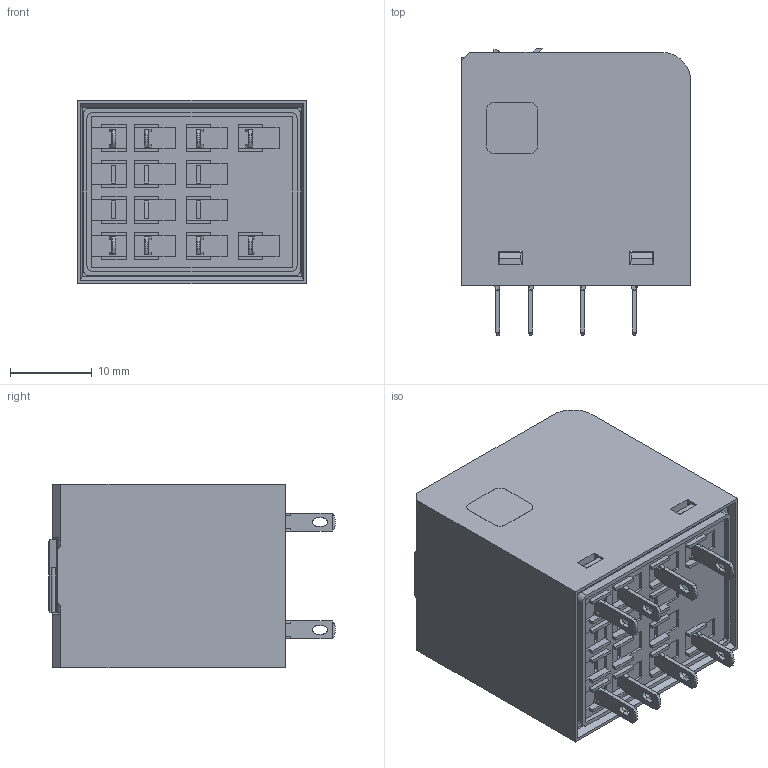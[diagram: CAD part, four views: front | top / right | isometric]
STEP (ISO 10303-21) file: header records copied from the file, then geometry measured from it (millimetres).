
FILE_DESCRIPTION(('STEP AP214'), '1');
FILE_NAME('Ðåëå ïðîìåæóòî÷íîå ÐÏ30-002 (íà ïîêàç)', '', ('UNSPECIFIED'), ('UNSPECIFIED'), 'ASCON STEP Converter 1.6', 'ASCON Math Kernel', '');
FILE_SCHEMA(('AUTOMOTIVE_DESIGN { 1 0 10303 214 3 1 1}'));
Length unit declared in the file: millimetre
Bounding box: 28 x 35.1 x 22.5 mm (x, y, z)
Volume: 4394.5 mm3; surface area: 9010.7 mm2
Topology: 6 solids, 6 shells, 722 faces, 1934 edges, 1232 vertices
Faces by surface type: plane 617, cylinder 104, cone 1
Full cylindrical faces by diameter (mm): 0.6 x2
Entity records: 27994 total; most frequent: CARTESIAN_POINT 3934, ORIENTED_EDGE 3862, DIRECTION 3587, EDGE_CURVE 1931, LINE 1689, VECTOR 1689, VERTEX_POINT 1232, AXIS2_PLACEMENT_3D 949
